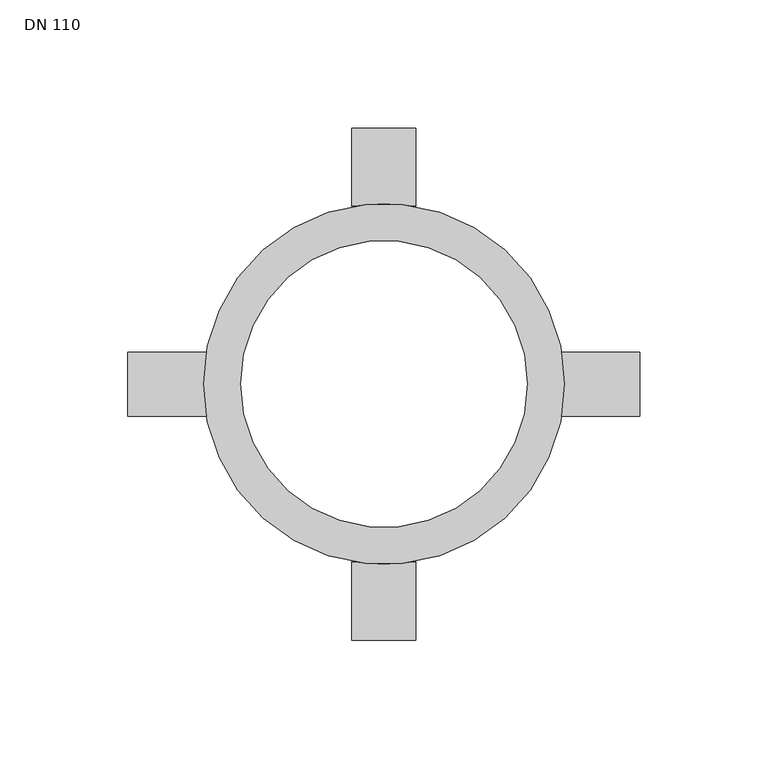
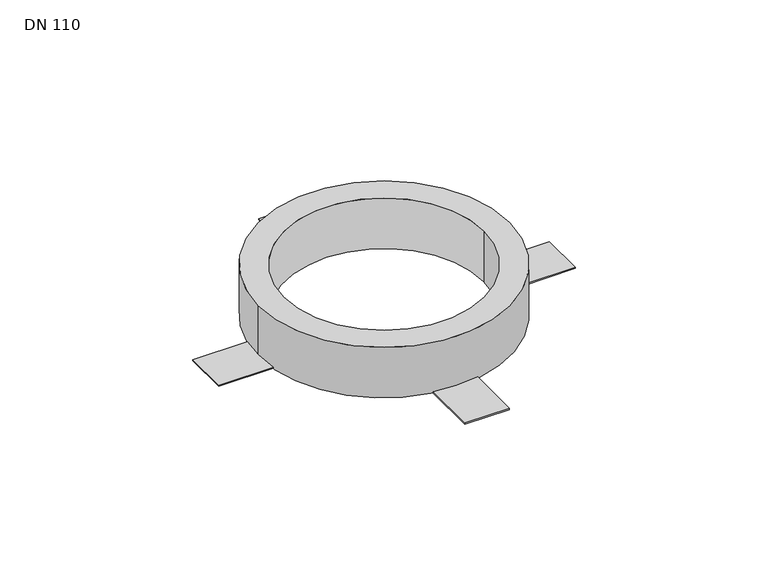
"""IFC4 building model written with IfcOpenShell, lengths in millimetres: proxy geometry, Wavin_SpecialtyEquipment_AsPlusFireCollarForCeilings : DN 110."""

from ifc_helpers import new_model, si_unit, point, origin, origin_with_axes, origin_2d, place, context, project, spatial, polyline, circle_curve, trimmed, segment, composite_curve, outline, extrude, source, transform, mapped, element, save


def dn_110_31cb750b(model_context):
    return source(origin(), model_context, "Body", "SweptSolid", [
        extrude(outline(composite_curve([segment(polyline([(100.0, 12.5), (100.0, -12.5), (69.382995, -12.5)]), True, "CONTINUOUS"), segment(trimmed(circle_curve(origin_2d(), 70.5), [point((69.382995, -12.5))], [point((69.382995, 12.5))], True, "CARTESIAN"), True, "CONTINUOUS"), segment(polyline([(69.382995, 12.5), (100.0, 12.5)]), True, "CONTINUOUS")], self_intersect=False)), origin_with_axes(), (0.0, 0.0, 1.0), 0.8),
        extrude(outline(composite_curve([segment(polyline([(-12.5, 100.0), (12.5, 100.0), (12.5, 69.382995)]), True, "CONTINUOUS"), segment(trimmed(circle_curve(origin_2d(), 70.5), [point((12.5, 69.382995))], [point((-12.5, 69.382995))], True, "CARTESIAN"), True, "CONTINUOUS"), segment(polyline([(-12.5, 69.382995), (-12.5, 100.0)]), True, "CONTINUOUS")], self_intersect=False)), origin_with_axes(), (0.0, 0.0, 1.0), 0.8),
        extrude(outline(composite_curve([segment(polyline([(-100.0, -12.5), (-100.0, 12.5), (-69.382995, 12.5)]), True, "CONTINUOUS"), segment(trimmed(circle_curve(origin_2d(), 70.5), [point((-69.382995, 12.5))], [point((-69.382995, -12.5))], True, "CARTESIAN"), True, "CONTINUOUS"), segment(polyline([(-69.382995, -12.5), (-100.0, -12.5)]), True, "CONTINUOUS")], self_intersect=False)), origin_with_axes(), (0.0, 0.0, 1.0), 0.8),
        extrude(outline(composite_curve([segment(polyline([(12.5, -100.0), (-12.5, -100.0), (-12.5, -69.382995)]), True, "CONTINUOUS"), segment(trimmed(circle_curve(origin_2d(), 70.5), [point((-12.5, -69.382995))], [point((12.5, -69.382995))], True, "CARTESIAN"), True, "CONTINUOUS"), segment(polyline([(12.5, -69.382995), (12.5, -100.0)]), True, "CONTINUOUS")], self_intersect=False)), origin_with_axes(), (0.0, 0.0, 1.0), 0.8),
        extrude(outline(composite_curve([segment(trimmed(circle_curve(origin_2d(), 70.5), [point((-70.5, 0.0))], [point((70.5, 0.0))], False, "CARTESIAN"), True, "CONTINUOUS"), segment(trimmed(circle_curve(origin_2d(), 70.5), [point((70.5, 0.0))], [point((-70.5, 0.0))], False, "CARTESIAN"), True, "CONTINUOUS")], self_intersect=False), holes=[composite_curve([segment(trimmed(circle_curve(origin_2d(), 56.0), [point((-56.0, 0.0))], [point((56.0, 0.0))], True, "CARTESIAN"), True, "CONTINUOUS"), segment(trimmed(circle_curve(origin_2d(), 56.0), [point((56.0, 0.0))], [point((-56.0, 0.0))], True, "CARTESIAN"), True, "CONTINUOUS")], self_intersect=False)]), origin_with_axes(), (0.0, 0.0, 1.0), 30.0),
    ])


if __name__ == "__main__":
    model = new_model("IFC4")
    model_context = context("Model", 3, world=origin())
    ifc_project = project(units=[si_unit("LENGTHUNIT", "METRE", prefix="MILLI")], contexts=[model_context])
    site = spatial("IfcSite", under=ifc_project)
    building = spatial("IfcBuilding", under=site)
    placement = place(None, origin())
    dn_110_shape = dn_110_31cb750b(model_context)
    element("IfcBuildingElementProxy", 1, Name="Wavin_SpecialtyEquipment_AsPlusFireCollarForCeilings : DN 110", ObjectType="Wavin_SpecialtyEquipment_AsPlusFireCollarForCeilings : DN 110", at=placement, inside=building, context=model_context, shape_type="MappedRepresentation", body=[
        mapped(dn_110_shape, transform((0.0, 0.0, 0.0), x_axis=(1.0, 0.0, 0.0), y_axis=(0.0, 1.0, 0.0), z_axis=(0.0, 0.0, 1.0))),
    ])
    save(model, "model.ifc")
